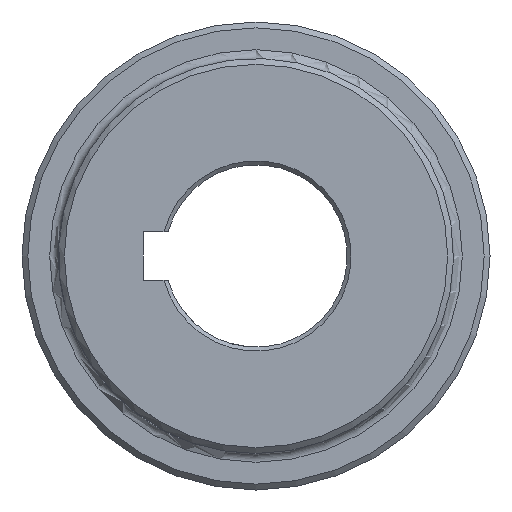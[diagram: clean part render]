
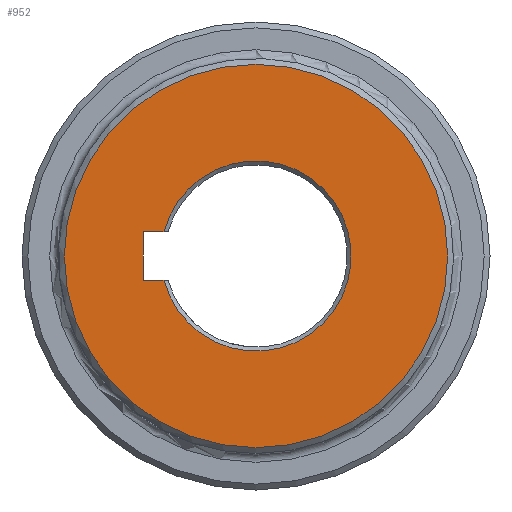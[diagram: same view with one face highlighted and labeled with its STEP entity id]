
A CAD part, left-side view. The second image highlights one B-rep face of the part: STEP entity #952.
In plain terms, the highlighted planar face has unit normal (-1, 0, 0).
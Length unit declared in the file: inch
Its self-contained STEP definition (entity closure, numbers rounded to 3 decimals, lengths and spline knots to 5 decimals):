
#21 = DIRECTION ( 'NONE',  ( 0., 1., 0. ) ) ;
#46 = VERTEX_POINT ( 'NONE', #827 ) ;
#104 = ORIENTED_EDGE ( 'NONE', *, *, #1223, .T. ) ;
#298 = PLANE ( 'NONE',  #2305 ) ;
#339 = DIRECTION ( 'NONE',  ( -1., 0., 0. ) ) ;
#451 = LINE ( 'NONE', #810, #1618 ) ;
#517 = ORIENTED_EDGE ( 'NONE', *, *, #2334, .F. ) ;
#535 = ORIENTED_EDGE ( 'NONE', *, *, #1369, .T. ) ;
#611 = CARTESIAN_POINT ( 'NONE',  ( 0., 1.15925, -0.25 ) ) ;
#666 = VECTOR ( 'NONE', #2738, 39.37008 ) ;
#756 = CARTESIAN_POINT ( 'NONE',  ( 0., 1.15925, 0.25 ) ) ;
#787 = ORIENTED_EDGE ( 'NONE', *, *, #2769, .F. ) ;
#788 = DIRECTION ( 'NONE',  ( 0., 0., -1. ) ) ;
#810 = CARTESIAN_POINT ( 'NONE',  ( 0., 0., 0.25 ) ) ;
#827 = CARTESIAN_POINT ( 'NONE',  ( 0., 0.94525, 0.25 ) ) ;
#952 = ADVANCED_FACE ( 'NONE', ( #1002, #2661 ), #298, .F. ) ;
#1002 = FACE_OUTER_BOUND ( 'NONE', #2533, .T. ) ;
#1003 = EDGE_LOOP ( 'NONE', ( #517, #104, #1985, #787 ) ) ;
#1073 = CARTESIAN_POINT ( 'NONE',  ( 0., 0., -0.25 ) ) ;
#1118 = DIRECTION ( 'NONE',  ( 1., 0., 0. ) ) ;
#1214 = AXIS2_PLACEMENT_3D ( 'NONE', #2125, #339, #2833 ) ;
#1222 = VECTOR ( 'NONE', #2736, 39.37008 ) ;
#1223 = EDGE_CURVE ( 'NONE', #46, #2025, #2648, .T. ) ;
#1308 = VERTEX_POINT ( 'NONE', #1584 ) ;
#1337 = CARTESIAN_POINT ( 'NONE',  ( 0., 1.15925, -0.25 ) ) ;
#1369 = EDGE_CURVE ( 'NONE', #1308, #1308, #1742, .T. ) ;
#1376 = VERTEX_POINT ( 'NONE', #1337 ) ;
#1584 = CARTESIAN_POINT ( 'NONE',  ( 0., 0., -1.97 ) ) ;
#1618 = VECTOR ( 'NONE', #21, 39.37008 ) ;
#1652 = VERTEX_POINT ( 'NONE', #756 ) ;
#1731 = CARTESIAN_POINT ( 'NONE',  ( 0., 0.94525, -0.25 ) ) ;
#1742 = CIRCLE ( 'NONE', #1214, 1.97 ) ;
#1880 = LINE ( 'NONE', #1073, #1222 ) ;
#1934 = CARTESIAN_POINT ( 'NONE',  ( 0., 0., 0. ) ) ;
#1985 = ORIENTED_EDGE ( 'NONE', *, *, #2613, .F. ) ;
#2025 = VERTEX_POINT ( 'NONE', #1731 ) ;
#2125 = CARTESIAN_POINT ( 'NONE',  ( 0., 0., 0. ) ) ;
#2305 = AXIS2_PLACEMENT_3D ( 'NONE', #1934, #2311, #2401 ) ;
#2311 = DIRECTION ( 'NONE',  ( 1., 0., 0. ) ) ;
#2334 = EDGE_CURVE ( 'NONE', #46, #1652, #451, .T. ) ;
#2359 = AXIS2_PLACEMENT_3D ( 'NONE', #2539, #1118, #788 ) ;
#2387 = LINE ( 'NONE', #611, #666 ) ;
#2401 = DIRECTION ( 'NONE',  ( 0., 0., -1. ) ) ;
#2533 = EDGE_LOOP ( 'NONE', ( #535 ) ) ;
#2539 = CARTESIAN_POINT ( 'NONE',  ( 0., 0., 0. ) ) ;
#2613 = EDGE_CURVE ( 'NONE', #1376, #2025, #1880, .T. ) ;
#2648 = CIRCLE ( 'NONE', #2359, 0.97775 ) ;
#2661 = FACE_BOUND ( 'NONE', #1003, .T. ) ;
#2736 = DIRECTION ( 'NONE',  ( 0., -1., 0. ) ) ;
#2738 = DIRECTION ( 'NONE',  ( 0., 0., -1. ) ) ;
#2769 = EDGE_CURVE ( 'NONE', #1652, #1376, #2387, .T. ) ;
#2833 = DIRECTION ( 'NONE',  ( 0., 0., -1. ) ) ;
